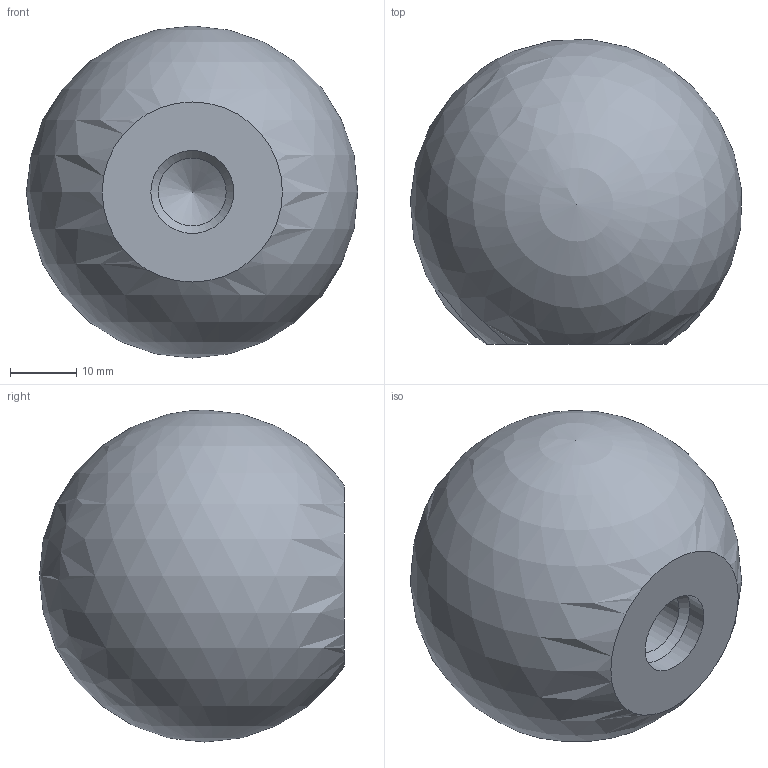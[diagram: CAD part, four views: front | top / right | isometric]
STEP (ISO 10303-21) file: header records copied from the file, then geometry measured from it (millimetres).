
FILE_DESCRIPTION (( 'STEP AP214' ), '1' );
FILE_NAME ('319-KU-50-M12-C.step', '2019-04-24T08:50:34', ( 'user' ), ( '' ), 'SwSTEP 2.0', 'SolidWorks 2019', '' );
FILE_SCHEMA (( 'AUTOMOTIVE_DESIGN' ));
Length unit declared in the file: millimetre
Products named in the file (1): 319-KU-50-M12-C
Bounding box: 49.89 x 45.91 x 50 mm (x, y, z)
Volume: 62314.9 mm3; surface area: 8492.1 mm2
Topology: 1 solids, 1 shells, 6 faces, 15 edges, 10 vertices
Faces by surface type: cone 2, cylinder 2, plane 1, sphere 1
Full cylindrical faces by diameter (mm): 10.2 x1, 12.5 x1
Entity records: 159 total; most frequent: DIRECTION 24, CARTESIAN_POINT 17, AXIS2_PLACEMENT_3D 12, ORIENTED_EDGE 10, EDGE_LOOP 10, FACE_OUTER_BOUND 8, ADVANCED_FACE 6, VERTEX_POINT 5
